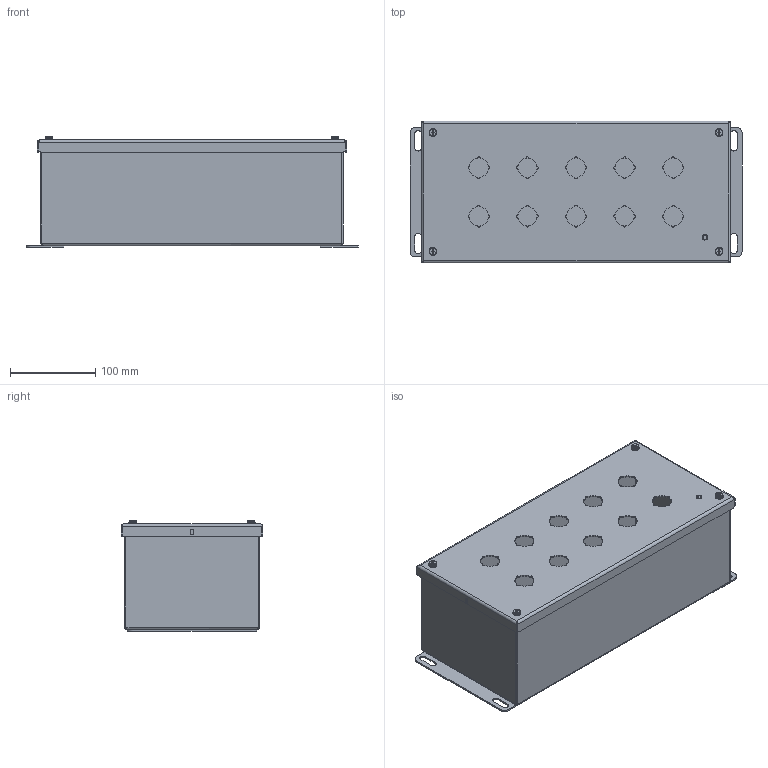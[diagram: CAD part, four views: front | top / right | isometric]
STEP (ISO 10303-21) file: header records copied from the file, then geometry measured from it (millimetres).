
FILE_DESCRIPTION((''),'2;1');
FILE_NAME('MODEL-335_ASM','2021-06-16T16:18:30',('chads'),('SAGINAW CONTROL & ENGINEERING'),'CREO PARAMETRIC BY PTC INC, 2017260','CREO PARAMETRIC BY PTC INC, 2017260','');
FILE_SCHEMA(('AUTOMOTIVE_DESIGN { 1 0 10303 214 1 1 1 1 }'));
Length unit declared in the file: inch
Products named in the file (10): MODEL-335-BDY; MODEL-335-DR; 100063; 102155; 101966; 100009; 100983; 102534; MODEL-335-GSKT; MODEL-335_ASM
Assembly tree (16 placements, depth 2):
  MODEL-335_ASM
    MODEL-335-BDY
    MODEL-335-DR
    100063
    102155  x2
    101966
    100009
    100983  x4
    102534  x4
    MODEL-335-GSKT
Bounding box: 390.52 x 166.69 x 130.14 mm (x, y, z)
Volume: 439634.9 mm3; surface area: 575791.9 mm2
Topology: 19 solids, 19 shells, 866 faces, 2211 edges, 1330 vertices
Faces by surface type: cylinder 382, plane 276, bspline 100, torus 80, cone 28
Entity records: 27463 total; most frequent: CARTESIAN_POINT 6399, DIRECTION 3067, ORIENTED_EDGE 2870, EDGE_CURVE 1435, PRESENTATION_STYLE_ASSIGNMENT 1347, STYLED_ITEM 1347, CURVE_STYLE 1271, AXIS2_PLACEMENT_3D 1169
